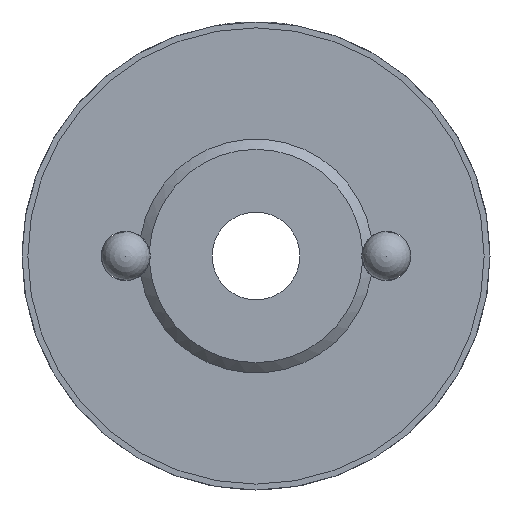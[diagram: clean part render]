
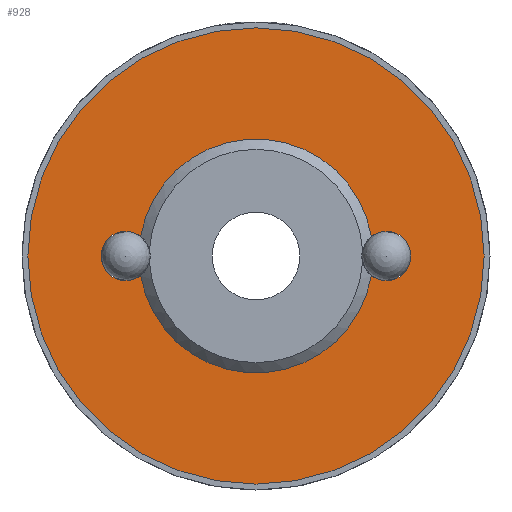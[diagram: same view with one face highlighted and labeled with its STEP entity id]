
A CAD part, left-side view. The second image highlights one B-rep face of the part: STEP entity #928.
In plain terms, the highlighted planar face has unit normal (-1, 0, 0).
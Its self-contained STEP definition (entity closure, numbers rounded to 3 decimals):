
#44=PLANE('',#1016);
#129=CIRCLE('',#1012,4.);
#130=CIRCLE('',#1014,7.8);
#132=CIRCLE('',#1017,4.);
#133=CIRCLE('',#1018,0.84);
#134=CIRCLE('',#1019,0.84);
#236=ORIENTED_EDGE('',*,*,#484,.F.);
#237=ORIENTED_EDGE('',*,*,#485,.T.);
#238=ORIENTED_EDGE('',*,*,#473,.F.);
#239=ORIENTED_EDGE('',*,*,#486,.T.);
#240=ORIENTED_EDGE('',*,*,#482,.T.);
#473=EDGE_CURVE('',#602,#603,#129,.T.);
#482=EDGE_CURVE('',#611,#611,#130,.T.);
#484=EDGE_CURVE('',#613,#614,#132,.T.);
#485=EDGE_CURVE('',#613,#603,#133,.T.);
#486=EDGE_CURVE('',#602,#614,#134,.T.);
#602=VERTEX_POINT('',#1425);
#603=VERTEX_POINT('',#1427);
#611=VERTEX_POINT('',#1457);
#613=VERTEX_POINT('',#1462);
#614=VERTEX_POINT('',#1463);
#756=EDGE_LOOP('',(#236,#237,#238,#239));
#757=EDGE_LOOP('',(#240));
#836=FACE_BOUND('',#756,.T.);
#837=FACE_BOUND('',#757,.T.);
#928=ADVANCED_FACE('',(#836,#837),#44,.F.);
#1012=AXIS2_PLACEMENT_3D('',#1426,#1142,#1143);
#1014=AXIS2_PLACEMENT_3D('',#1456,#1150,#1151);
#1016=AXIS2_PLACEMENT_3D('',#1460,#1154,#1155);
#1017=AXIS2_PLACEMENT_3D('',#1461,#1156,#1157);
#1018=AXIS2_PLACEMENT_3D('',#1464,#1158,#1159);
#1019=AXIS2_PLACEMENT_3D('',#1465,#1160,#1161);
#1142=DIRECTION('',(-1.,0.,0.));
#1143=DIRECTION('',(0.,0.,1.));
#1150=DIRECTION('',(-1.,0.,0.));
#1151=DIRECTION('',(0.,0.,1.));
#1154=DIRECTION('',(1.,0.,0.));
#1155=DIRECTION('',(0.,0.,-1.));
#1156=DIRECTION('',(-1.,0.,0.));
#1157=DIRECTION('',(0.,0.,1.));
#1158=DIRECTION('',(1.,0.,0.));
#1159=DIRECTION('',(0.,-1.,0.));
#1160=DIRECTION('',(1.,0.,0.));
#1161=DIRECTION('',(0.,1.,0.));
#1425=CARTESIAN_POINT('',(-13.5,-3.944,0.667));
#1426=CARTESIAN_POINT('',(-13.5,0.,0.));
#1427=CARTESIAN_POINT('',(-13.5,3.944,0.667));
#1456=CARTESIAN_POINT('',(-13.5,0.,0.));
#1457=CARTESIAN_POINT('',(-13.5,0.,7.8));
#1460=CARTESIAN_POINT('',(-13.5,7.8,0.));
#1461=CARTESIAN_POINT('',(-13.5,0.,0.));
#1462=CARTESIAN_POINT('',(-13.5,3.944,-0.667));
#1463=CARTESIAN_POINT('',(-13.5,-3.944,-0.667));
#1464=CARTESIAN_POINT('',(-13.5,4.455,0.));
#1465=CARTESIAN_POINT('',(-13.5,-4.455,0.));
